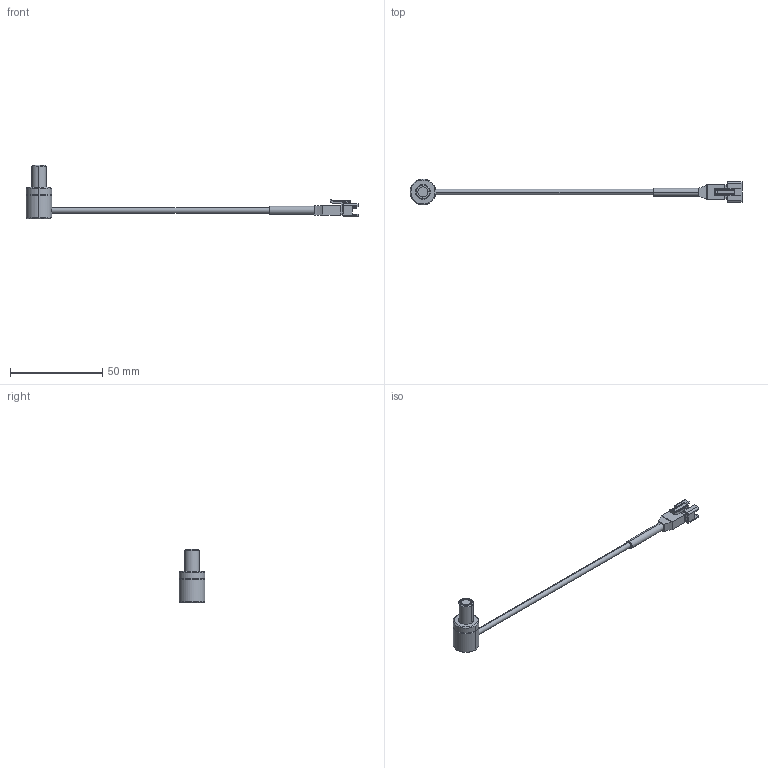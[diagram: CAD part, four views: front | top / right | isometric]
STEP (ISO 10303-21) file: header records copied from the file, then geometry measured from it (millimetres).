
FILE_DESCRIPTION(('STEP AP214'),'1');
FILE_NAME('VSP-V24_DRAWING_3D.step','2023-11-10T01:46:18',(' '),(' '),'Spatial InterOp 3D',' ',' ');
FILE_SCHEMA(('AUTOMOTIVE_DESIGN { 1 0 10303 214 1 1 1 1 }'));
Length unit declared in the file: millimetre
Products named in the file (6): TUBE 2; TUBE 1; DIFFUSER; ACRYL ROD; Cable
Assembly tree (5 placements, depth 2):
  (unnamed)
    TUBE 2
    TUBE 1
    DIFFUSER
    ACRYL ROD
    Cable
Bounding box: 179.61 x 14 x 28.9 mm (x, y, z)
Volume: 4144.3 mm3; surface area: 5453.9 mm2
Topology: 6 solids, 6 shells, 227 faces, 561 edges, 360 vertices
Faces by surface type: plane 140, cylinder 71, cone 8, bspline 4, torus 4
Entity records: 8884 total; most frequent: CARTESIAN_POINT 1546, ORIENTED_EDGE 1122, DIRECTION 1083, EDGE_CURVE 561, LINE 409, VECTOR 409, VERTEX_POINT 360, AXIS2_PLACEMENT_3D 337
